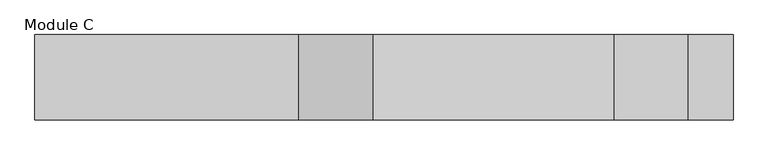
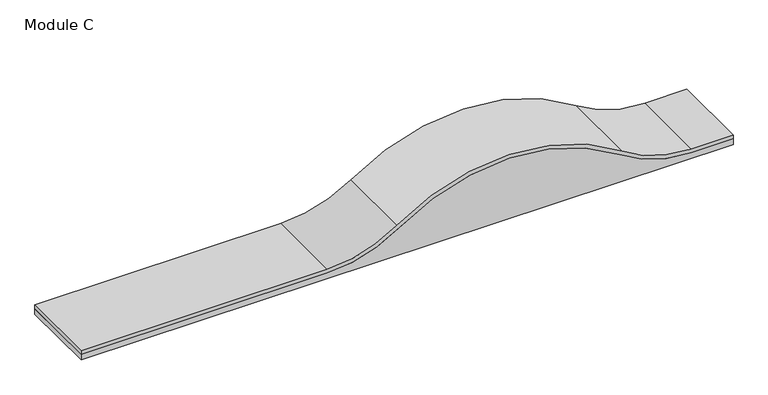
"""IFC4 building model written with IfcOpenShell, lengths in millimetres: proxy geometry, Spinneybeck_Wave : Module C."""

from ifc_helpers import new_model, si_unit, point, frame, frame_2d, origin, place, context, project, spatial, polyline, circle_curve, trimmed, segment, composite_curve, outline, extrude, source, transform, mapped, element, save


def module_c_232ed236(model_context):
    return source(origin(), model_context, "Body", "SweptSolid", [
        extrude(outline(composite_curve([segment(polyline([(16.3710938, -547.37), (10.0210938, -547.37), (10.0210937, -134.4593722)]), True, "CONTINUOUS"), segment(trimmed(circle_curve(frame_2d((219.5710938, -134.4593722)), 209.55), [point((10.0210937, -134.4593722))], [point((48.2227491, -13.8320648))], False, "CARTESIAN"), True, "CONTINUOUS"), segment(trimmed(circle_curve(frame_2d((-214.9662069, 171.45)), 321.8662301), [point((48.2227491, -13.8320648))], [point((48.2227491, 356.7320648))], True, "CARTESIAN"), True, "CONTINUOUS"), segment(trimmed(circle_curve(frame_2d((219.5710938, 477.3593722)), 209.55), [point((48.2227491, 356.7320648))], [point((10.0210938, 477.3593722))], False, "CARTESIAN"), True, "CONTINUOUS"), segment(polyline([(10.0210938, 477.3593722), (10.0210938, 547.37), (16.3710938, 547.37), (16.3710938, 477.3593722)]), True, "CONTINUOUS"), segment(trimmed(circle_curve(frame_2d((219.5710938, 477.3593722)), 203.2), [point((16.3710938, 477.3593722))], [point((53.4151232, 360.3874377))], True, "CARTESIAN"), True, "CONTINUOUS"), segment(trimmed(circle_curve(frame_2d((-214.9662069, 171.45)), 328.2162301), [point((53.4151232, 360.3874377))], [point((53.4151232, -17.4874377))], False, "CARTESIAN"), True, "CONTINUOUS"), segment(trimmed(circle_curve(frame_2d((219.5710938, -134.4593722)), 203.2), [point((53.4151232, -17.4874377))], [point((16.3710938, -134.4593722))], True, "CARTESIAN"), True, "CONTINUOUS"), segment(polyline([(16.3710938, -134.4593722), (16.3710938, -547.37)]), True, "CONTINUOUS")], self_intersect=False)), frame((0.0, -67.0222656, 0.0), z_axis=(0.0, 1.0, 0.0), x_axis=(0.0, 0.0, 1.0)), (0.0, 0.0, 1.0), 134.0445313),
        extrude(outline(composite_curve([segment(trimmed(circle_curve(frame_2d((-214.9662069, 171.45)), 321.8662301), [point((48.2227491, 356.7320648))], [point((48.2227491, -13.8320648))], False, "CARTESIAN"), True, "CONTINUOUS"), segment(trimmed(circle_curve(frame_2d((219.5710938, -134.4593722)), 209.55), [point((48.2227491, -13.8320648))], [point((10.0210938, -134.4593722))], True, "CARTESIAN"), True, "CONTINUOUS"), segment(polyline([(10.0210938, -134.4593722), (10.0210937, -547.37), (0.0, -547.37), (0.0, 547.37), (10.0210938, 547.37), (10.0210938, 477.3593722)]), True, "CONTINUOUS"), segment(trimmed(circle_curve(frame_2d((219.5710938, 477.3593722)), 209.55), [point((10.0210938, 477.3593722))], [point((48.2227491, 356.7320648))], True, "CARTESIAN"), True, "CONTINUOUS")], self_intersect=False)), frame((0.0, -67.0222656, 0.0), z_axis=(0.0, 1.0, 0.0), x_axis=(0.0, 0.0, 1.0)), (0.0, 0.0, 1.0), 134.0445313),
    ])


if __name__ == "__main__":
    model = new_model("IFC4")
    model_context = context("Model", 3, world=origin())
    ifc_project = project(units=[si_unit("LENGTHUNIT", "METRE", prefix="MILLI")], contexts=[model_context])
    site = spatial("IfcSite", under=ifc_project)
    building = spatial("IfcBuilding", under=site)
    placement = place(None, origin())
    module_c_shape = module_c_232ed236(model_context)
    element("IfcBuildingElementProxy", 1, Name="Spinneybeck_Wave : Module C", ObjectType="Spinneybeck_Wave : Module C", at=placement, inside=building, context=model_context, shape_type="MappedRepresentation", body=[
        mapped(module_c_shape, transform((0.0, 0.0, 0.0), x_axis=(1.0, 0.0, 0.0), y_axis=(0.0, 1.0, 0.0), z_axis=(0.0, 0.0, 1.0))),
    ])
    save(model, "model.ifc")
